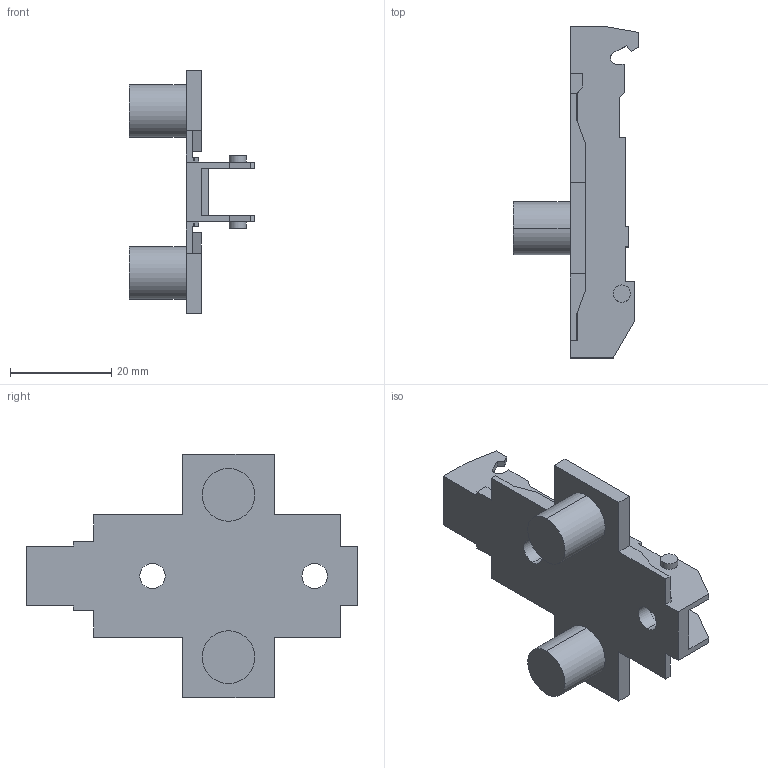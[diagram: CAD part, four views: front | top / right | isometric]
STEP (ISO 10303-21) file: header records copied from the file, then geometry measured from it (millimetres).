
FILE_DESCRIPTION (( 'STEP AP214' ), '1' );
FILE_NAME ('1D_Kreuzmontageplatte 37_32_10mm_Dübel_3.step', '2018-10-02T12:38:48', ( '' ), ( '' ), 'SwSTEP 2.0', 'SolidWorks 2017', '' );
FILE_SCHEMA (( 'AUTOMOTIVE_DESIGN' ));
Length unit declared in the file: millimetre
Products named in the file (1): 1D_Kreuzmontageplatte 37_32_10mm_Dübel_3
Bounding box: 24.7 x 65.5 x 48 mm (x, y, z)
Volume: 8154.9 mm3; surface area: 7433.8 mm2
Topology: 1 solids, 1 shells, 114 faces, 314 edges, 208 vertices
Faces by surface type: plane 88, cylinder 22, cone 4
Entity records: 3636 total; most frequent: CARTESIAN_POINT 637, ORIENTED_EDGE 628, DIRECTION 592, EDGE_CURVE 314, LINE 266, VECTOR 266, VERTEX_POINT 208, AXIS2_PLACEMENT_3D 163
